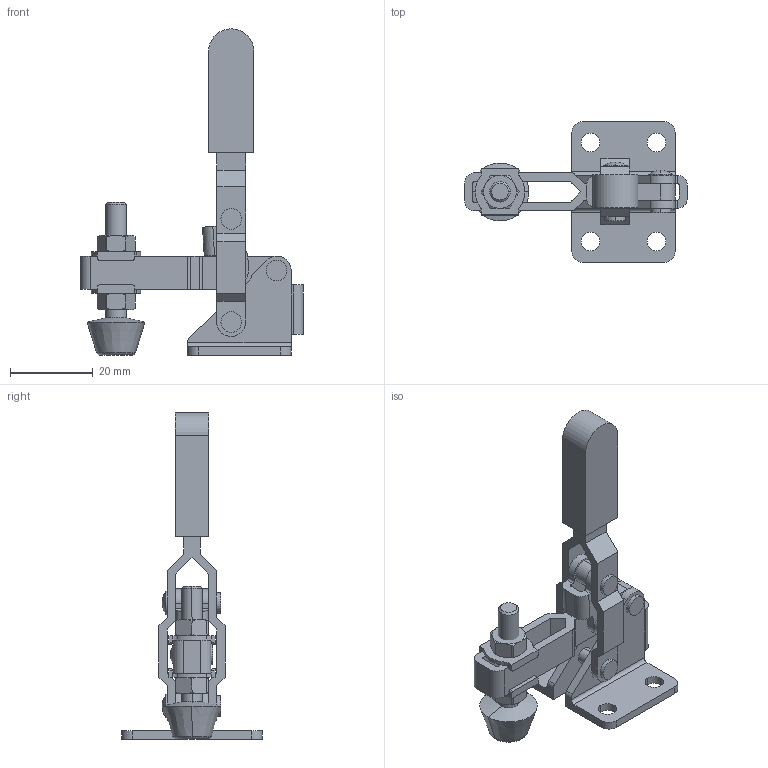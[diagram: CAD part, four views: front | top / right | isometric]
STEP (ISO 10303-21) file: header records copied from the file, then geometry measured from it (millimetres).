
FILE_DESCRIPTION(('CATIA V5 STEP Exchange'),'2;1');
FILE_NAME('D:\Model\toggle\toggle_standard\KJF_005_11F.stp','2005-06-24T04:47:59+00:00',('none'),('none'),'CATIA Version 5 Release 11 (IN-9)','CATIA V5 STEP AP203',' none');
FILE_SCHEMA(('CONFIG_CONTROL_DESIGN'));
Length unit declared in the file: millimetre
Products named in the file (1): Part1
Bounding box: 54 x 34 x 79 mm (x, y, z)
Volume: 11605 mm3; surface area: 12005.2 mm2
Topology: 14 solids, 14 shells, 343 faces, 886 edges, 572 vertices
Faces by surface type: plane 156, cylinder 139, cone 38, sphere 8, torus 2
Entity records: 9870 total; most frequent: CARTESIAN_POINT 2048, ORIENTED_EDGE 1756, DIRECTION 1268, EDGE_CURVE 878, VERTEX_POINT 572, AXIS2_PLACEMENT_3D 560, VECTOR 484, LINE 484
